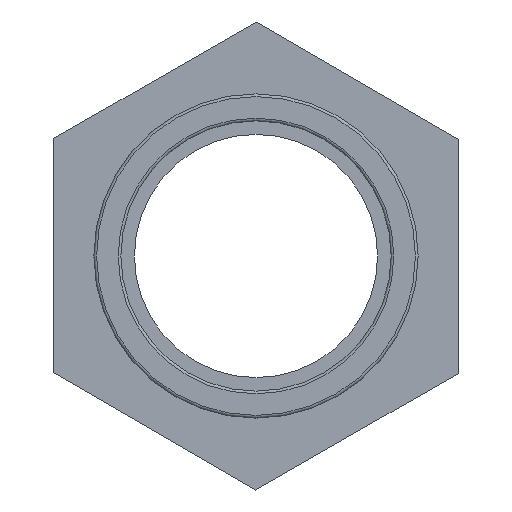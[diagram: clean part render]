
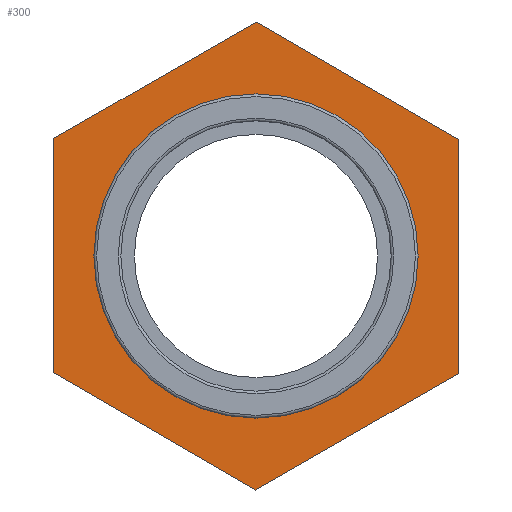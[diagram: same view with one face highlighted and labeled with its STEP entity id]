
A CAD part, left-side view. The second image highlights one B-rep face of the part: STEP entity #300.
In plain terms, the highlighted planar face has unit normal (-1, 0, 0).
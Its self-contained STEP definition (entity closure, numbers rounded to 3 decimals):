
#15=LINE('',#466,#33);
#19=LINE('',#474,#37);
#22=LINE('',#480,#40);
#25=LINE('',#487,#43);
#29=LINE('',#494,#47);
#31=LINE('',#497,#49);
#33=VECTOR('',#386,17.321);
#37=VECTOR('',#392,17.321);
#40=VECTOR('',#397,17.321);
#43=VECTOR('',#402,17.321);
#47=VECTOR('',#408,17.321);
#49=VECTOR('',#412,17.321);
#67=PLANE('',#337);
#82=FACE_BOUND('',#139,.T.);
#103=FACE_OUTER_BOUND('',#138,.T.);
#138=EDGE_LOOP('',(#269,#270,#271,#272,#273,#274));
#139=EDGE_LOOP('',(#275));
#151=CIRCLE('',#324,12.);
#165=VERTEX_POINT('',#461);
#166=VERTEX_POINT('',#464);
#167=VERTEX_POINT('',#465);
#170=VERTEX_POINT('',#473);
#172=VERTEX_POINT('',#479);
#174=VERTEX_POINT('',#485);
#175=VERTEX_POINT('',#486);
#191=EDGE_CURVE('',#165,#165,#151,.T.);
#192=EDGE_CURVE('',#166,#167,#15,.T.);
#196=EDGE_CURVE('',#167,#170,#19,.T.);
#199=EDGE_CURVE('',#170,#172,#22,.T.);
#202=EDGE_CURVE('',#174,#175,#25,.T.);
#206=EDGE_CURVE('',#175,#166,#29,.T.);
#208=EDGE_CURVE('',#172,#174,#31,.T.);
#269=ORIENTED_EDGE('',*,*,#206,.F.);
#270=ORIENTED_EDGE('',*,*,#202,.F.);
#271=ORIENTED_EDGE('',*,*,#208,.F.);
#272=ORIENTED_EDGE('',*,*,#199,.F.);
#273=ORIENTED_EDGE('',*,*,#196,.F.);
#274=ORIENTED_EDGE('',*,*,#192,.F.);
#275=ORIENTED_EDGE('',*,*,#191,.F.);
#300=ADVANCED_FACE('',(#103,#82),#67,.T.);
#324=AXIS2_PLACEMENT_3D('',#462,#382,#383);
#337=AXIS2_PLACEMENT_3D('',#507,#426,#427);
#382=DIRECTION('center_axis',(-1.,0.,0.));
#383=DIRECTION('ref_axis',(0.,0.,1.));
#386=DIRECTION('',(0.,0.003,-1.));
#392=DIRECTION('',(0.,0.867,-0.498));
#397=DIRECTION('',(0.,0.865,0.502));
#402=DIRECTION('',(0.,-0.867,0.498));
#408=DIRECTION('',(0.,-0.865,-0.502));
#412=DIRECTION('',(0.,-0.003,1.));
#426=DIRECTION('center_axis',(-1.,0.,0.));
#427=DIRECTION('ref_axis',(0.,0.,1.));
#461=CARTESIAN_POINT('',(-5.9,-12.,0.));
#462=CARTESIAN_POINT('Origin',(-5.9,0.,0.));
#464=CARTESIAN_POINT('',(-5.9,-15.024,8.619));
#465=CARTESIAN_POINT('',(-5.9,-14.976,-8.702));
#466=CARTESIAN_POINT('',(-5.9,-14.988,-4.371));
#473=CARTESIAN_POINT('',(-5.9,0.048,-17.32));
#474=CARTESIAN_POINT('',(-5.9,-3.708,-15.166));
#479=CARTESIAN_POINT('',(-5.9,15.024,-8.619));
#480=CARTESIAN_POINT('',(-5.9,11.28,-10.794));
#485=CARTESIAN_POINT('',(-5.9,14.976,8.702));
#486=CARTESIAN_POINT('',(-5.9,-0.048,17.32));
#487=CARTESIAN_POINT('',(-5.9,3.708,15.166));
#494=CARTESIAN_POINT('',(-5.9,-11.28,10.794));
#497=CARTESIAN_POINT('',(-5.9,15.,0.041));
#507=CARTESIAN_POINT('Origin',(-5.9,-12.,0.));
